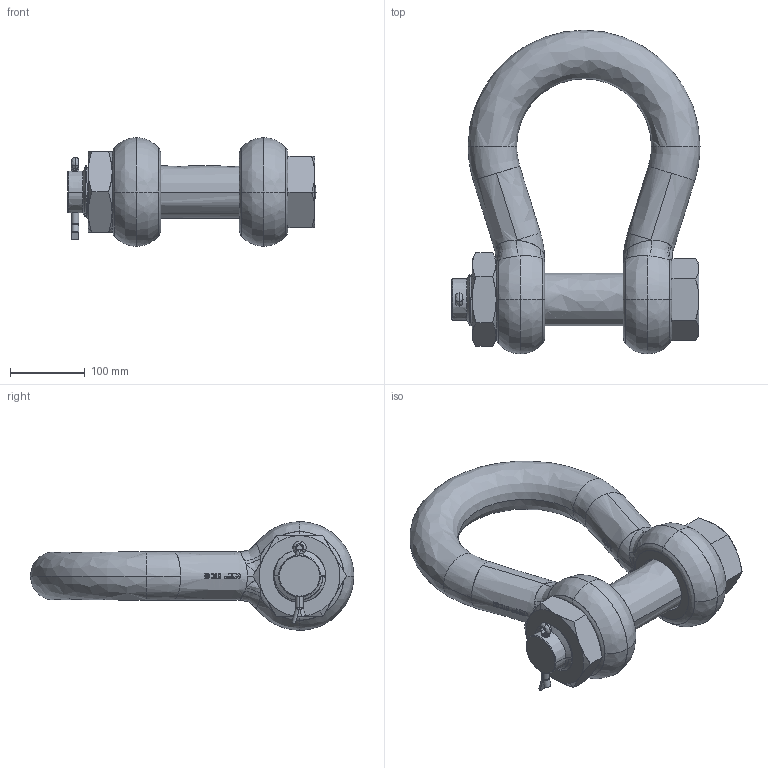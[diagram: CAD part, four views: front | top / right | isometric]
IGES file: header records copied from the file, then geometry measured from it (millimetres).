
Start section: START RECORD GO HERE.
Global section: file name: 55.igs; native system: Solidworks 2009            ion 5 Release 17 ; preprocessor: CATIA Version 5 Release 17 ; author: v.b.; organization: P4; date: 20090807.082257; units: millimetre
Bounding box: 331.5 x 432.5 x 145 mm (x, y, z)
Surface area: 386089.8 mm2 (no closed solid volume)
Topology: 0 solids, 0 shells, 828 faces, 5916 edges, 5908 vertices
Faces by surface type: bspline 367, plane 290, revolution 171
